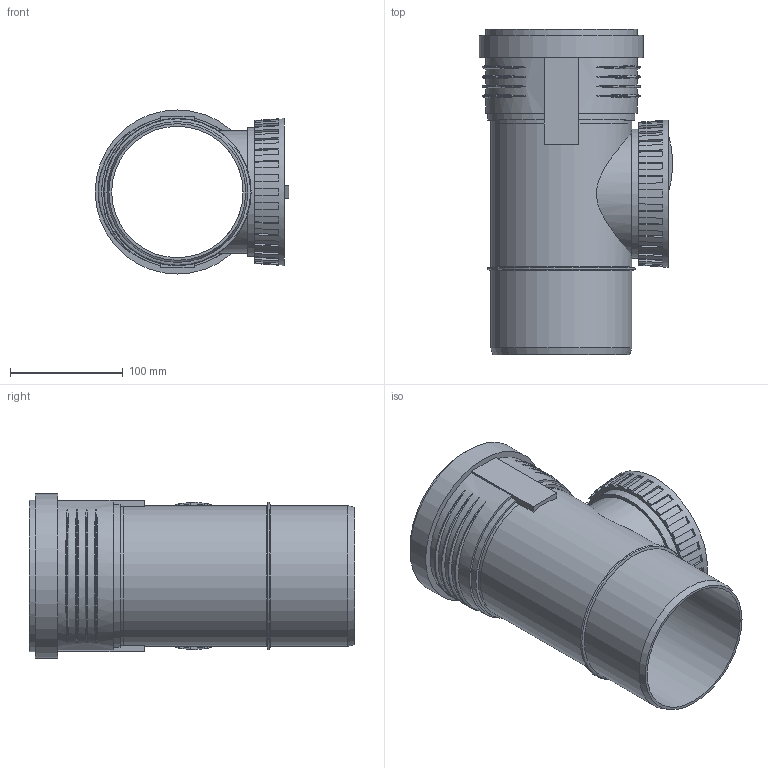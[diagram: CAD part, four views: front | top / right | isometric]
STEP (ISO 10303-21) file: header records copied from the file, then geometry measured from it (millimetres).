
FILE_DESCRIPTION(/* description */ (''),/* implementation_level */ '2;1');
FILE_NAME(/* name */ 'Z:\Geberit\Export\NewStep\390627.stp',/* time_stamp */ '2014-04-02T08:15:53+02:00',/* author */ ('ML'),/* organization */ (''),/* preprocessor_version */ 'ST-DEVELOPER v15.2',/* originating_system */ 'Autodesk Inventor 2014',/* authorisation */ '');
FILE_SCHEMA (('AUTOMOTIVE_DESIGN { 1 0 10303 214 3 1 1 }'));
Length unit declared in the file: millimetre
Products named in the file (4): 861641; 861625; 861486; 390627
Bounding box: 171.92 x 289 x 145.9 mm (x, y, z)
Volume: 682382.1 mm3; surface area: 332369.1 mm2
Topology: 3 solids, 3 shells, 217 faces, 587 edges, 393 vertices
Faces by surface type: plane 158, torus 27, cylinder 22, cone 10
Full cylindrical faces by diameter (mm): 102.5 x1, 114.65 x1, 116.8 x1, 117 x1, 125.2 x3, 126.4 x2, 134.6 x1, 137.7 x1, 145.9 x1
Entity records: 7709 total; most frequent: CARTESIAN_POINT 2211, ORIENTED_EDGE 1130, DIRECTION 1022, EDGE_CURVE 563, VERTEX_POINT 390, AXIS2_PLACEMENT_3D 361, LINE 300, VECTOR 300
